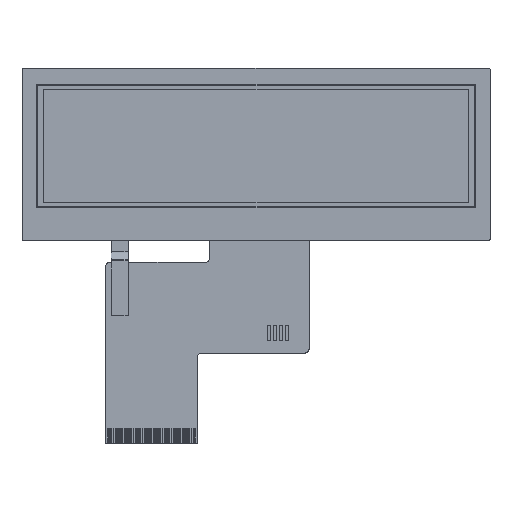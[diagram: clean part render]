
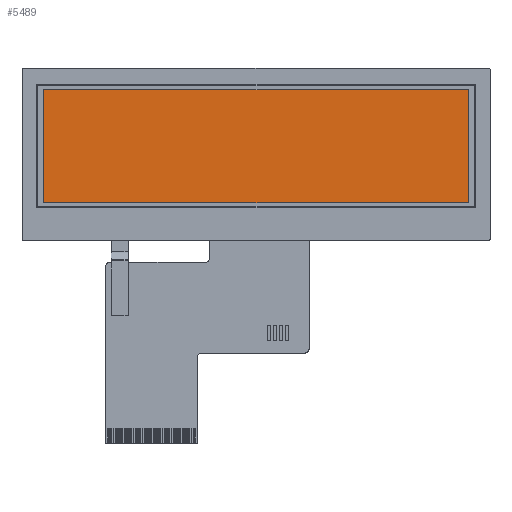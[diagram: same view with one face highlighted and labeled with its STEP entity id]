
A CAD part, top view. The second image highlights one B-rep face of the part: STEP entity #5489.
In plain terms, the highlighted planar face has unit normal (0, 0, 1).
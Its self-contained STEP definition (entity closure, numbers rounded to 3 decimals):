
#515 = DIRECTION ( 'NONE',  ( 0., 1., 0. ) ) ;
#797 = DIRECTION ( 'NONE',  ( 0., -1., 0. ) ) ;
#984 = FACE_OUTER_BOUND ( 'NONE', #4643, .T. ) ;
#1336 = VERTEX_POINT ( 'NONE', #10437 ) ;
#1745 = LINE ( 'NONE', #10104, #5901 ) ;
#1832 = EDGE_CURVE ( 'NONE', #7009, #6450, #4749, .T. ) ;
#1841 = ORIENTED_EDGE ( 'NONE', *, *, #9131, .T. ) ;
#1922 = DIRECTION ( 'NONE',  ( 1., 0., 0. ) ) ;
#1951 = ORIENTED_EDGE ( 'NONE', *, *, #1832, .T. ) ;
#2700 = EDGE_CURVE ( 'NONE', #6450, #1336, #10642, .T. ) ;
#2775 = LINE ( 'NONE', #7104, #4192 ) ;
#3018 = ORIENTED_EDGE ( 'NONE', *, *, #3500, .T. ) ;
#3500 = EDGE_CURVE ( 'NONE', #1336, #10030, #1745, .T. ) ;
#4192 = VECTOR ( 'NONE', #6169, 1000. ) ;
#4384 = CARTESIAN_POINT ( 'NONE',  ( 21932.217, 3184.157, -1.33 ) ) ;
#4633 = DIRECTION ( 'NONE',  ( -1., 0., 0. ) ) ;
#4643 = EDGE_LOOP ( 'NONE', ( #1841, #1951, #10814, #3018 ) ) ;
#4749 = LINE ( 'NONE', #8963, #9143 ) ;
#5489 = ADVANCED_FACE ( 'NONE', ( #984 ), #6166, .T. ) ;
#5901 = VECTOR ( 'NONE', #797, 1000. ) ;
#6166 = PLANE ( 'NONE',  #9470 ) ;
#6169 = DIRECTION ( 'NONE',  ( 1., 0., 0. ) ) ;
#6208 = CARTESIAN_POINT ( 'NONE',  ( 21979.737, 3158.813, -1.33 ) ) ;
#6450 = VERTEX_POINT ( 'NONE', #10121 ) ;
#6841 = VECTOR ( 'NONE', #4633, 1000. ) ;
#7009 = VERTEX_POINT ( 'NONE', #6208 ) ;
#7104 = CARTESIAN_POINT ( 'NONE',  ( 21932.217, 3158.813, -1.33 ) ) ;
#8963 = CARTESIAN_POINT ( 'NONE',  ( 21979.737, 3184.157, -1.33 ) ) ;
#9131 = EDGE_CURVE ( 'NONE', #10030, #7009, #2775, .T. ) ;
#9143 = VECTOR ( 'NONE', #515, 1000. ) ;
#9470 = AXIS2_PLACEMENT_3D ( 'NONE', #4384, #9548, #1922 ) ;
#9548 = DIRECTION ( 'NONE',  ( 0., 0., 1. ) ) ;
#9638 = CARTESIAN_POINT ( 'NONE',  ( 21932.217, 3184.157, -1.33 ) ) ;
#9919 = CARTESIAN_POINT ( 'NONE',  ( 21884.697, 3158.813, -1.33 ) ) ;
#10030 = VERTEX_POINT ( 'NONE', #9919 ) ;
#10104 = CARTESIAN_POINT ( 'NONE',  ( 21884.697, 3184.157, -1.33 ) ) ;
#10121 = CARTESIAN_POINT ( 'NONE',  ( 21979.737, 3184.157, -1.33 ) ) ;
#10437 = CARTESIAN_POINT ( 'NONE',  ( 21884.697, 3184.157, -1.33 ) ) ;
#10642 = LINE ( 'NONE', #9638, #6841 ) ;
#10814 = ORIENTED_EDGE ( 'NONE', *, *, #2700, .T. ) ;
